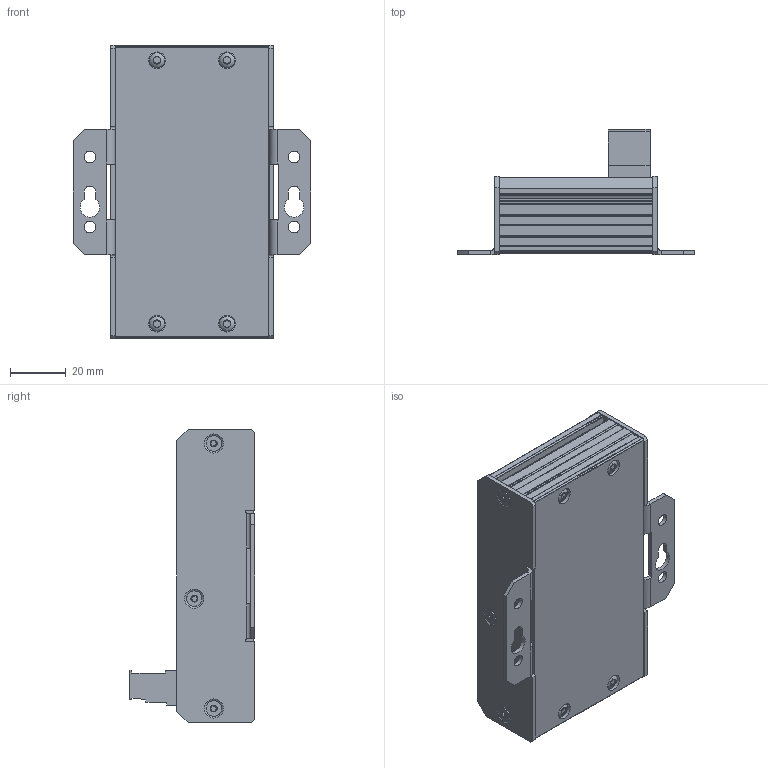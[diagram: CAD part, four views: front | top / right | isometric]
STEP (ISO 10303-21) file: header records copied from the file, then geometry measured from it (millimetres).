
FILE_DESCRIPTION(('TFLEX Exchange Step'),'2;1');
FILE_NAME('TZCA12169XA_NITE-RW8-219X.stp', '2020-04-06T11:25:00+02:00',('User'),('Unknown organisation'),'TFLEX Exchange 2019.0','T-FLEX CAD','Unknown authorisation');
FILE_SCHEMA( ('AUTOMOTIVE_DESIGN { 1 0 10303 214 1 1 1 1 }') );
Length unit declared in the file: millimetre
Products named in the file (1): TZCA01802A_NITE-RW8-GE
Bounding box: 85 x 45 x 105 mm (x, y, z)
Volume: 151644.2 mm3; surface area: 44064.8 mm2
Topology: 2 solids, 10 shells, 2156 faces, 6128 edges, 4104 vertices
Faces by surface type: plane 1478, cylinder 485, bspline 169, cone 15, extrusion 5, sphere 4
Full cylindrical faces by diameter (mm): 0.5 x64, 1.3 x3, 2.2 x3, 3 x9, 3.2 x6, 3.75 x3, 3.95 x3, 5.5 x10, 6 x4
Entity records: 81231 total; most frequent: CARTESIAN_POINT 29423, ORIENTED_EDGE 12256, DIRECTION 7736, EDGE_CURVE 6128, VERTEX_POINT 4104, B_SPLINE_CURVE_WITH_KNOTS 3112, AXIS2_PLACEMENT_3D 2727, EDGE_LOOP 2490
